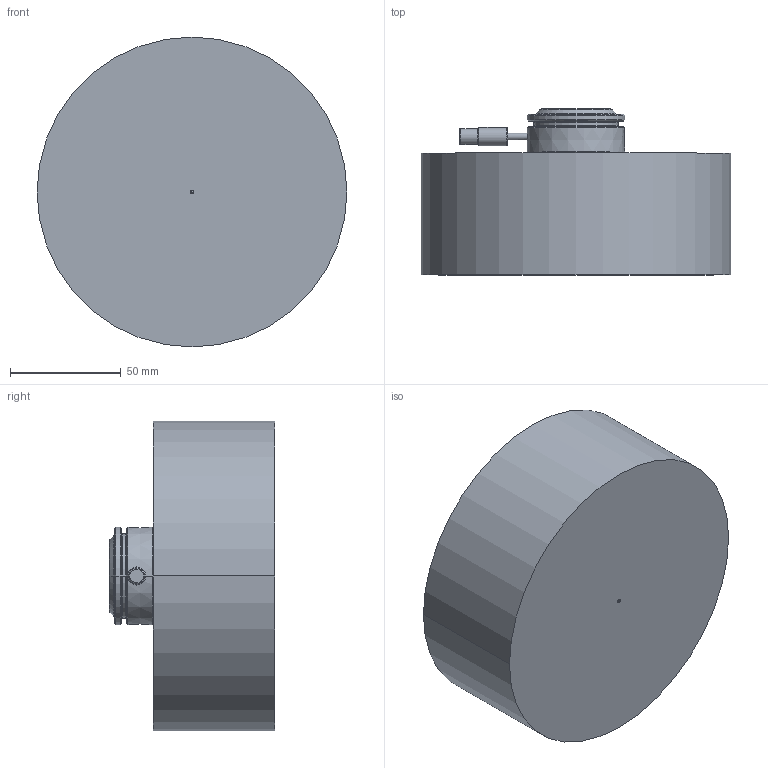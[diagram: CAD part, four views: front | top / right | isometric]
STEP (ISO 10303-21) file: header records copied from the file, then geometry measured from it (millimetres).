
FILE_DESCRIPTION((''),'2;1');
FILE_NAME('M44G101.stp','2020-09-19T08:39:52',(''),(''),'AutoCAD STEP 2000i','AutoCAD 2000i',', , ');
FILE_SCHEMA(('CONFIG_CONTROL_DESIGN'));
Length unit declared in the file: millimetre
Products named in the file (3): DRAWING1; NOZZLE M101G44; MOLD BODY M 101 G 44
Assembly tree (2 placements, depth 2):
  DRAWING1
    NOZZLE M101G44
    MOLD BODY M 101 G 44
Bounding box: 140 x 75 x 140 mm (x, y, z)
Volume: 868970.5 mm3; surface area: 70993.8 mm2
Topology: 2 solids, 2 shells, 127 faces, 297 edges, 176 vertices
Faces by surface type: cone 72, cylinder 22, bspline 16, torus 10, plane 7
Entity records: 4492 total; most frequent: CARTESIAN_POINT 1401, DIRECTION 713, ORIENTED_EDGE 586, AXIS2_PLACEMENT_3D 309, EDGE_CURVE 293, CIRCLE 195, VERTEX_POINT 176, EDGE_LOOP 133
